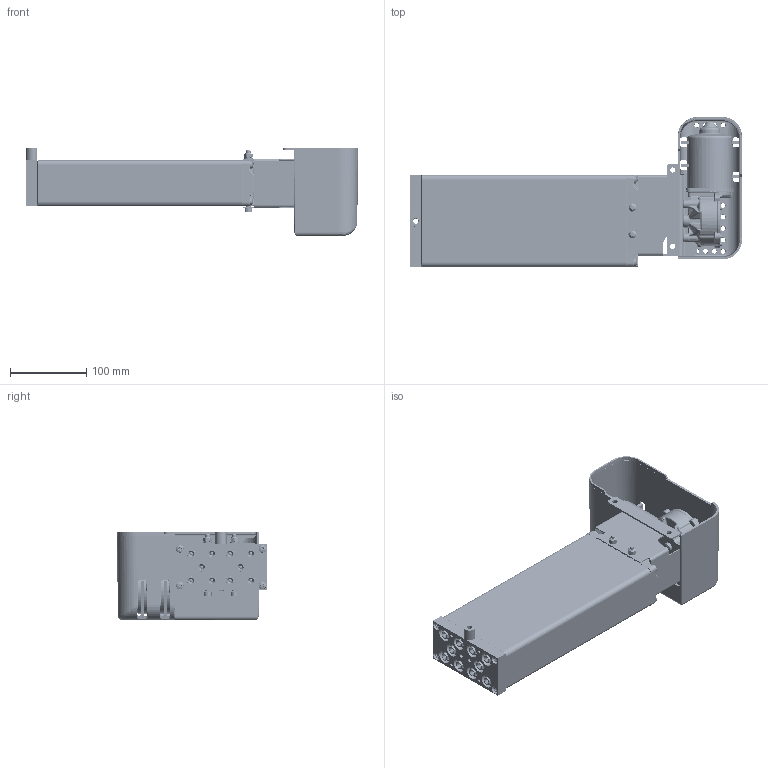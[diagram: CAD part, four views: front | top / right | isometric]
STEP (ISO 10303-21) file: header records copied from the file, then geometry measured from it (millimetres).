
FILE_DESCRIPTION(/* description */ ('Unknown'),/* implementation_level */ '2;1');
FILE_NAME(/* name */ '3X2.20281 Pumpe PB 0815 W mit Antrieb',/* time_stamp */ '2016-11-03T13:22:17+01:00',/* author */ ('Unknown'),/* organization */ ('Unknown'),/* preprocessor_version */ 'ST-DEVELOPER v16.7',/* originating_system */ 'DEX',/* authorisation */ $);
FILE_SCHEMA (('AUTOMOTIVE_DESIGN {1 0 10303 214 3 1 1}'));
Products named in the file (33): 102.00281; 115.10031; 125.00061; 115.00008; 142.00021; 125.00021; 142.00013; 125.00141; 115.00140; 126.00006; 122.00040; 119.00041; 126.00036; 127.00201; 127.00200; 127.00023; 124.00090; Getriebe; Ring; Schraube; Stator; Abdeckplatte; Antriebswelle; 128.00051; 123.00031; 142.00018; 142.00019; 142.00025; 142.00131; 123.00029; 142.00057; 142.00083; 142.00017
Assembly tree (57 placements, depth 3):
  102.00281
    115.10031  x10
      125.00061
      115.00008
      142.00021
      125.00021
    142.00013  x8
    125.00141
    115.00140
      126.00006
      122.00040
    119.00041
    126.00036
    127.00201
      127.00200
      127.00023
    124.00090
      Getriebe
      Ring
      Schraube
      Stator
      Abdeckplatte
      Antriebswelle
    128.00051
    123.00031
    142.00018  x2
    142.00019  x2
    142.00025  x2
    142.00131  x3
    123.00029
    142.00057
    142.00083  x4
    142.00017  x2
Bounding box: 434.45 x 196.04 x 115.45 mm (x, y, z)
Volume: 952047.6 mm3; surface area: 587881.7 mm2
Topology: 70 solids, 72 shells, 4530 faces, 11293 edges, 6928 vertices
Faces by surface type: plane 1443, cylinder 1216, bspline 1040, cone 521, torus 210, sphere 100
Full cylindrical faces by diameter (mm): 2.5 x4, 3.2 x4, 3.5 x10, 3.9 x5, 4.1 x10, 4.134 x4, 4.2 x12, 4.4 x5, 4.5 x1, 4.917 x4, 5 x12, 5.5 x5, 5.8 x4, 6 x8, 6.4 x2, 6.8 x6, 6.917 x20, 7 x1, 8 x22, 8.5 x10, 9 x2, 9.5 x1, 9.8 x8, 10 x10, 10.3 x1, 10.32 x1, 10.4 x1, 10.5 x4, 11 x5, 12.5 x10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
Entity records: 165512 total; most frequent: CARTESIAN_POINT 80691, ORIENTED_EDGE 16062, DIRECTION 12105, EDGE_CURVE 8031, VERTEX_POINT 5275, AXIS2_PLACEMENT_3D 4687, FACE_BOUND 4026, EDGE_LOOP 4021
